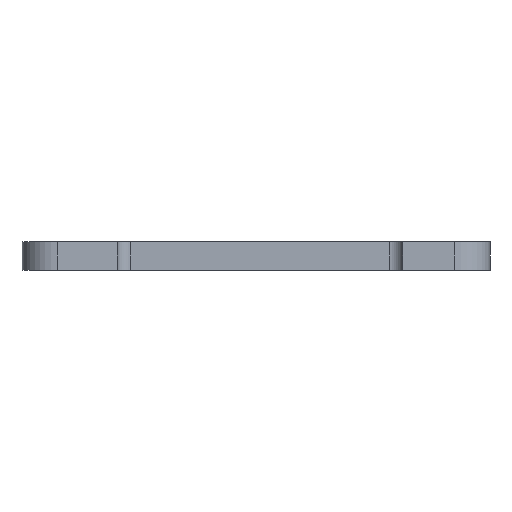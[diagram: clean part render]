
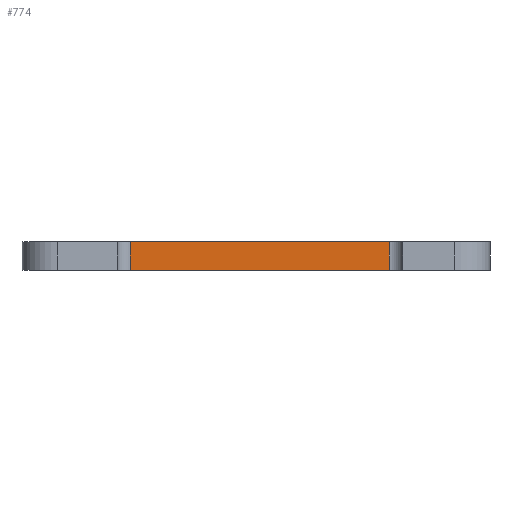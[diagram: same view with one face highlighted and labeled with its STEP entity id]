
A CAD part, left-side view. The second image highlights one B-rep face of the part: STEP entity #774.
In plain terms, the highlighted planar face has unit normal (-1, 0, 0).
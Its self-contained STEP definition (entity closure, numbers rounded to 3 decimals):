
#38=PLANE('',#831);
#62=FACE_OUTER_BOUND('',#101,.T.);
#101=EDGE_LOOP('',(#544,#545,#546,#547));
#160=LINE('',#1131,#237);
#164=LINE('',#1143,#241);
#166=LINE('',#1148,#243);
#167=LINE('',#1149,#244);
#237=VECTOR('',#906,10.);
#241=VECTOR('',#916,10.);
#243=VECTOR('',#922,10.);
#244=VECTOR('',#923,10.);
#347=VERTEX_POINT('',#1124);
#350=VERTEX_POINT('',#1129);
#354=VERTEX_POINT('',#1140);
#355=VERTEX_POINT('',#1142);
#424=EDGE_CURVE('',#350,#347,#160,.T.);
#429=EDGE_CURVE('',#354,#355,#164,.T.);
#432=EDGE_CURVE('',#355,#350,#166,.T.);
#433=EDGE_CURVE('',#347,#354,#167,.T.);
#544=ORIENTED_EDGE('',*,*,#424,.F.);
#545=ORIENTED_EDGE('',*,*,#432,.F.);
#546=ORIENTED_EDGE('',*,*,#429,.F.);
#547=ORIENTED_EDGE('',*,*,#433,.F.);
#774=ADVANCED_FACE('',(#62),#38,.T.);
#831=AXIS2_PLACEMENT_3D('',#1147,#920,#921);
#906=DIRECTION('',(0.,0.,-1.));
#916=DIRECTION('',(0.,0.,1.));
#920=DIRECTION('center_axis',(-1.,0.,0.));
#921=DIRECTION('ref_axis',(0.,-1.,0.));
#922=DIRECTION('',(0.,-1.,0.));
#923=DIRECTION('',(0.,1.,0.));
#1124=CARTESIAN_POINT('',(212.,14.741,1.6));
#1129=CARTESIAN_POINT('',(212.,14.741,4.775));
#1131=CARTESIAN_POINT('',(212.,14.741,1.6));
#1140=CARTESIAN_POINT('',(212.,44.075,1.6));
#1142=CARTESIAN_POINT('',(212.,44.075,4.775));
#1143=CARTESIAN_POINT('',(212.,44.075,1.6));
#1147=CARTESIAN_POINT('Origin',(212.,45.575,1.6));
#1148=CARTESIAN_POINT('',(212.,13.241,4.775));
#1149=CARTESIAN_POINT('',(212.,13.241,1.6));
